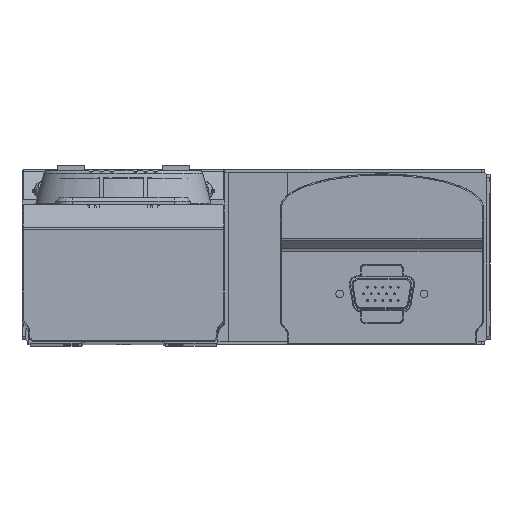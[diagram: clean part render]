
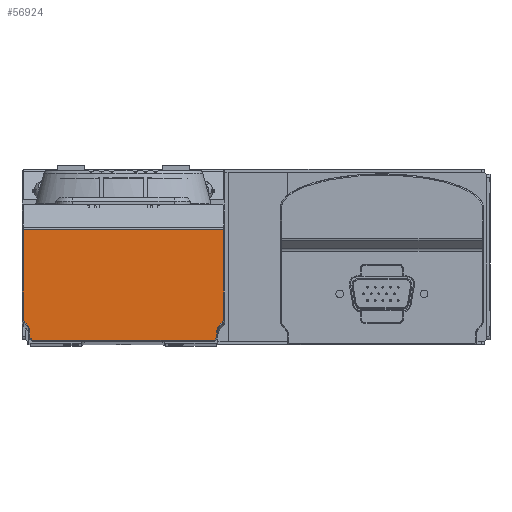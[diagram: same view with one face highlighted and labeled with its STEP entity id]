
A CAD part, top view. The second image highlights one B-rep face of the part: STEP entity #56924.
In plain terms, the highlighted planar face has unit normal (0, 0, 1).
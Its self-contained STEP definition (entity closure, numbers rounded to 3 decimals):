
#56 = CARTESIAN_POINT ( 'NONE',  ( -31.078, -19.709, 875.5 ) ) ;
#693 = CARTESIAN_POINT ( 'NONE',  ( 26.322, 12.376, 875.5 ) ) ;
#1344 = EDGE_CURVE ( 'NONE', #19616, #52453, #57028, .T. ) ;
#2289 = CARTESIAN_POINT ( 'NONE',  ( -33.378, -17.538, 875.5 ) ) ;
#2755 = CARTESIAN_POINT ( 'NONE',  ( 23.498, -20.409, 875.5 ) ) ;
#3459 = ORIENTED_EDGE ( 'NONE', *, *, #9173, .T. ) ;
#3495 = DIRECTION ( 'NONE',  ( 1., 0., 0. ) ) ;
#4341 = ORIENTED_EDGE ( 'NONE', *, *, #14392, .T. ) ;
#4811 = CARTESIAN_POINT ( 'NONE',  ( -31.751, -15.911, 875.5 ) ) ;
#5384 = CARTESIAN_POINT ( 'NONE',  ( -32.58, -15.083, 875.5 ) ) ;
#5751 = CARTESIAN_POINT ( 'NONE',  ( 21.16, -22.747, 875.5 ) ) ;
#7122 = EDGE_CURVE ( 'NONE', #16646, #40991, #61642, .T. ) ;
#9173 = EDGE_CURVE ( 'NONE', #27757, #14107, #53917, .T. ) ;
#9375 = CARTESIAN_POINT ( 'NONE',  ( -3.378, 1.791, 875.5 ) ) ;
#9631 = CARTESIAN_POINT ( 'NONE',  ( -30.253, -20.409, 875.5 ) ) ;
#10758 = CARTESIAN_POINT ( 'NONE',  ( -31.378, -13.881, 875.5 ) ) ;
#11756 = CARTESIAN_POINT ( 'NONE',  ( -33.078, -13.881, 875.5 ) ) ;
#11782 = CARTESIAN_POINT ( 'NONE',  ( 24.322, -17.538, 875.5 ) ) ;
#11984 = DIRECTION ( 'NONE',  ( 0., 0., 1. ) ) ;
#12287 = CARTESIAN_POINT ( 'NONE',  ( 24.322, -17.538, 875.5 ) ) ;
#13257 = CARTESIAN_POINT ( 'NONE',  ( -27.915, -22.747, 875.5 ) ) ;
#13968 = ORIENTED_EDGE ( 'NONE', *, *, #62254, .T. ) ;
#14107 = VERTEX_POINT ( 'NONE', #5384 ) ;
#14392 = EDGE_CURVE ( 'NONE', #55398, #24849, #58952, .T. ) ;
#14603 = VECTOR ( 'NONE', #32383, 1000. ) ;
#14715 = CARTESIAN_POINT ( 'NONE',  ( -31.078, -19.585, 875.5 ) ) ;
#14824 = CARTESIAN_POINT ( 'NONE',  ( 24.322, -19.585, 875.5 ) ) ;
#14952 = ORIENTED_EDGE ( 'NONE', *, *, #1344, .T. ) ;
#15313 = CARTESIAN_POINT ( 'NONE',  ( 26.322, 12.376, 875.5 ) ) ;
#15644 = CARTESIAN_POINT ( 'NONE',  ( -3.378, 12.376, 875.5 ) ) ;
#15991 = ORIENTED_EDGE ( 'NONE', *, *, #56980, .T. ) ;
#16646 = VERTEX_POINT ( 'NONE', #11782 ) ;
#16949 = DIRECTION ( 'NONE',  ( 0., 0., -1. ) ) ;
#17958 = VECTOR ( 'NONE', #31850, 1000. ) ;
#19616 = VERTEX_POINT ( 'NONE', #53904 ) ;
#20138 = DIRECTION ( 'NONE',  ( 0., -1., 0. ) ) ;
#20811 = LINE ( 'NONE', #40994, #27052 ) ;
#21808 = VECTOR ( 'NONE', #35397, 1000. ) ;
#22384 = DIRECTION ( 'NONE',  ( 0., 0., -1. ) ) ;
#22412 = VECTOR ( 'NONE', #3495, 1000. ) ;
#22837 = EDGE_LOOP ( 'NONE', ( #14952, #23192, #4341, #51829, #34964, #13968, #30340, #29789, #26078, #15991, #61734, #27260, #3459, #41988 ) ) ;
#23192 = ORIENTED_EDGE ( 'NONE', *, *, #53353, .T. ) ;
#24340 = CARTESIAN_POINT ( 'NONE',  ( -33.078, 12.376, 875.5 ) ) ;
#24785 = AXIS2_PLACEMENT_3D ( 'NONE', #57653, #11984, #32081 ) ;
#24849 = VERTEX_POINT ( 'NONE', #9631 ) ;
#24899 = DIRECTION ( 'NONE',  ( 0.707, -0.707, 0. ) ) ;
#24988 = AXIS2_PLACEMENT_3D ( 'NONE', #9375, #29451, #49886 ) ;
#25843 = DIRECTION ( 'NONE',  ( 0.707, 0.707, 0. ) ) ;
#26078 = ORIENTED_EDGE ( 'NONE', *, *, #59068, .T. ) ;
#26478 = VERTEX_POINT ( 'NONE', #30552 ) ;
#27052 = VECTOR ( 'NONE', #61681, 1000. ) ;
#27260 = ORIENTED_EDGE ( 'NONE', *, *, #41745, .T. ) ;
#27568 = EDGE_CURVE ( 'NONE', #40991, #38937, #20811, .T. ) ;
#27757 = VERTEX_POINT ( 'NONE', #58916 ) ;
#28518 = LINE ( 'NONE', #48922, #22412 ) ;
#29451 = DIRECTION ( 'NONE',  ( 0., 0., 1. ) ) ;
#29789 = ORIENTED_EDGE ( 'NONE', *, *, #27568, .T. ) ;
#30340 = ORIENTED_EDGE ( 'NONE', *, *, #7122, .T. ) ;
#30552 = CARTESIAN_POINT ( 'NONE',  ( 26.322, -13.881, 875.5 ) ) ;
#30839 = DIRECTION ( 'NONE',  ( 0., 0., 1. ) ) ;
#31850 = DIRECTION ( 'NONE',  ( 0., -1., 0. ) ) ;
#32081 = DIRECTION ( 'NONE',  ( 1., 0., 0. ) ) ;
#32383 = DIRECTION ( 'NONE',  ( 0., 1., 0. ) ) ;
#33100 = VERTEX_POINT ( 'NONE', #693 ) ;
#33345 = DIRECTION ( 'NONE',  ( 0.707, -0.707, 0. ) ) ;
#34412 = FACE_OUTER_BOUND ( 'NONE', #22837, .T. ) ;
#34964 = ORIENTED_EDGE ( 'NONE', *, *, #51164, .T. ) ;
#35059 = EDGE_CURVE ( 'NONE', #24849, #61537, #28518, .T. ) ;
#35397 = DIRECTION ( 'NONE',  ( 0., 1., 0. ) ) ;
#35713 = DIRECTION ( 'NONE',  ( -1., 0., 0. ) ) ;
#35915 = VECTOR ( 'NONE', #25843, 1000. ) ;
#37025 = DIRECTION ( 'NONE',  ( 1., 0., 0. ) ) ;
#37310 = VERTEX_POINT ( 'NONE', #24340 ) ;
#37370 = VERTEX_POINT ( 'NONE', #14824 ) ;
#37890 = CARTESIAN_POINT ( 'NONE',  ( -31.078, -17.538, 875.5 ) ) ;
#38937 = VERTEX_POINT ( 'NONE', #52655 ) ;
#39011 = VECTOR ( 'NONE', #33345, 1000. ) ;
#40991 = VERTEX_POINT ( 'NONE', #58254 ) ;
#40994 = CARTESIAN_POINT ( 'NONE',  ( 25.825, -15.083, 875.5 ) ) ;
#41745 = EDGE_CURVE ( 'NONE', #37310, #27757, #41801, .T. ) ;
#41801 = LINE ( 'NONE', #11756, #17958 ) ;
#41988 = ORIENTED_EDGE ( 'NONE', *, *, #61390, .T. ) ;
#42618 = DIRECTION ( 'NONE',  ( 1., 0., 0. ) ) ;
#45396 = LINE ( 'NONE', #56, #65338 ) ;
#47157 = CARTESIAN_POINT ( 'NONE',  ( 26.622, -17.538, 875.5 ) ) ;
#48922 = CARTESIAN_POINT ( 'NONE',  ( 23.622, -20.409, 875.5 ) ) ;
#49886 = DIRECTION ( 'NONE',  ( 1., 0., 0. ) ) ;
#50283 = LINE ( 'NONE', #4811, #53846 ) ;
#51164 = EDGE_CURVE ( 'NONE', #61537, #37370, #51235, .T. ) ;
#51235 = LINE ( 'NONE', #5751, #35915 ) ;
#51296 = DIRECTION ( 'NONE',  ( 1., 0., 0. ) ) ;
#51829 = ORIENTED_EDGE ( 'NONE', *, *, #35059, .T. ) ;
#52246 = AXIS2_PLACEMENT_3D ( 'NONE', #10758, #30839, #51296 ) ;
#52453 = VERTEX_POINT ( 'NONE', #37890 ) ;
#52655 = CARTESIAN_POINT ( 'NONE',  ( 25.825, -15.083, 875.5 ) ) ;
#53353 = EDGE_CURVE ( 'NONE', #52453, #55398, #45396, .T. ) ;
#53610 = CIRCLE ( 'NONE', #24785, 1.7 ) ;
#53625 = VECTOR ( 'NONE', #35713, 1000. ) ;
#53846 = VECTOR ( 'NONE', #24899, 1000. ) ;
#53904 = CARTESIAN_POINT ( 'NONE',  ( -31.751, -15.911, 875.5 ) ) ;
#53917 = CIRCLE ( 'NONE', #52246, 1.7 ) ;
#54968 = PLANE ( 'NONE',  #24988 ) ;
#55083 = EDGE_CURVE ( 'NONE', #33100, #37310, #61403, .T. ) ;
#55398 = VERTEX_POINT ( 'NONE', #14715 ) ;
#56924 = ADVANCED_FACE ( 'NONE', ( #34412 ), #54968, .T. ) ;
#56980 = EDGE_CURVE ( 'NONE', #26478, #33100, #61073, .T. ) ;
#57028 = CIRCLE ( 'NONE', #57080, 2.3 ) ;
#57080 = AXIS2_PLACEMENT_3D ( 'NONE', #2289, #22384, #42618 ) ;
#57331 = AXIS2_PLACEMENT_3D ( 'NONE', #47157, #16949, #37025 ) ;
#57653 = CARTESIAN_POINT ( 'NONE',  ( 24.622, -13.881, 875.5 ) ) ;
#57974 = LINE ( 'NONE', #12287, #14603 ) ;
#58254 = CARTESIAN_POINT ( 'NONE',  ( 24.996, -15.911, 875.5 ) ) ;
#58916 = CARTESIAN_POINT ( 'NONE',  ( -33.078, -13.881, 875.5 ) ) ;
#58952 = LINE ( 'NONE', #13257, #39011 ) ;
#59068 = EDGE_CURVE ( 'NONE', #38937, #26478, #53610, .T. ) ;
#61073 = LINE ( 'NONE', #15313, #21808 ) ;
#61390 = EDGE_CURVE ( 'NONE', #14107, #19616, #50283, .T. ) ;
#61403 = LINE ( 'NONE', #15644, #53625 ) ;
#61537 = VERTEX_POINT ( 'NONE', #2755 ) ;
#61642 = CIRCLE ( 'NONE', #57331, 2.3 ) ;
#61681 = DIRECTION ( 'NONE',  ( 0.707, 0.707, 0. ) ) ;
#61734 = ORIENTED_EDGE ( 'NONE', *, *, #55083, .T. ) ;
#62254 = EDGE_CURVE ( 'NONE', #37370, #16646, #57974, .T. ) ;
#65338 = VECTOR ( 'NONE', #20138, 1000. ) ;
